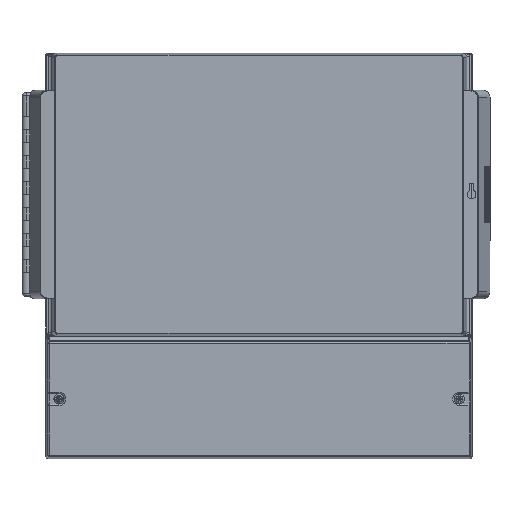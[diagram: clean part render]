
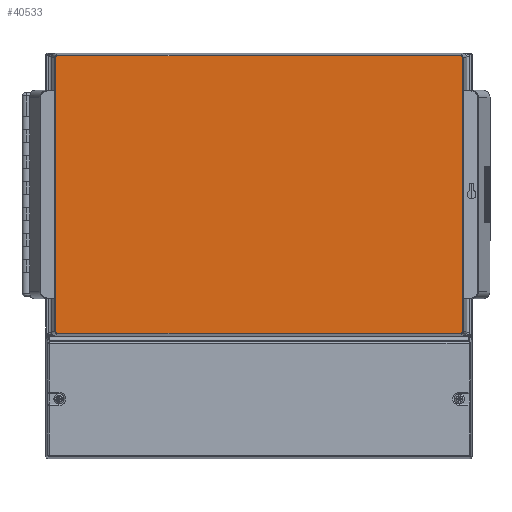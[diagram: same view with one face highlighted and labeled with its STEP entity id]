
A CAD part, top view. The second image highlights one B-rep face of the part: STEP entity #40533.
In plain terms, the highlighted planar face has unit normal (0, 0, 1) as drawn and (0, 1, 0) by its records, which use the part's own axes.
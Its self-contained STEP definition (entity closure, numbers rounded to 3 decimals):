
#39968=CARTESIAN_POINT('',(-13.954,2.75,-9.608));
#39969=VERTEX_POINT('',#39968);
#39977=CARTESIAN_POINT('',(13.954,2.75,-9.608));
#39978=VERTEX_POINT('',#39977);
#39979=CARTESIAN_POINT('',(-13.954,2.75,-9.608));
#39980=DIRECTION('',(1.0,0.0,0.0));
#39981=VECTOR('',#39980,27.908);
#39982=LINE('',#39979,#39981);
#39983=EDGE_CURVE('',#39969,#39978,#39982,.T.);
#40054=CARTESIAN_POINT('',(-14.104,2.75,-9.459));
#40055=VERTEX_POINT('',#40054);
#40063=CARTESIAN_POINT('',(-13.953,2.75,-9.458));
#40064=DIRECTION('',(0.0,-1.0,0.0));
#40065=DIRECTION('',(-0.92,0.0,-0.393));
#40066=AXIS2_PLACEMENT_3D('',#40063,#40064,#40065);
#40067=ELLIPSE('',#40066,0.151,0.15);
#40068=EDGE_CURVE('',#40055,#39969,#40067,.T.);
#40132=CARTESIAN_POINT('',(14.104,2.75,-9.459));
#40133=VERTEX_POINT('',#40132);
#40149=CARTESIAN_POINT('',(13.953,2.75,-9.458));
#40150=DIRECTION('',(0.0,-1.,0.0));
#40151=DIRECTION('',(0.92,0.0,-0.393));
#40152=AXIS2_PLACEMENT_3D('',#40149,#40150,#40151);
#40153=ELLIPSE('',#40152,0.151,0.15);
#40154=EDGE_CURVE('',#39978,#40133,#40153,.T.);
#40164=CARTESIAN_POINT('',(-14.104,2.75,9.459));
#40165=VERTEX_POINT('',#40164);
#40173=CARTESIAN_POINT('',(-14.104,2.75,9.459));
#40174=DIRECTION('',(0.0,0.0,-1.0));
#40175=VECTOR('',#40174,18.918);
#40176=LINE('',#40173,#40175);
#40177=EDGE_CURVE('',#40165,#40055,#40176,.T.);
#40189=CARTESIAN_POINT('',(14.104,2.75,9.459));
#40190=VERTEX_POINT('',#40189);
#40200=CARTESIAN_POINT('',(14.104,2.75,-9.459));
#40201=DIRECTION('',(0.0,0.0,1.0));
#40202=VECTOR('',#40201,18.918);
#40203=LINE('',#40200,#40202);
#40204=EDGE_CURVE('',#40133,#40190,#40203,.T.);
#40262=CARTESIAN_POINT('',(-13.954,2.75,9.608));
#40263=VERTEX_POINT('',#40262);
#40271=CARTESIAN_POINT('',(-13.953,2.75,9.458));
#40272=DIRECTION('',(0.0,-1.,0.0));
#40273=DIRECTION('',(-0.92,0.0,0.393));
#40274=AXIS2_PLACEMENT_3D('',#40271,#40272,#40273);
#40275=ELLIPSE('',#40274,0.151,0.15);
#40276=EDGE_CURVE('',#40263,#40165,#40275,.T.);
#40340=CARTESIAN_POINT('',(13.954,2.75,9.608));
#40341=VERTEX_POINT('',#40340);
#40359=CARTESIAN_POINT('',(13.953,2.75,9.458));
#40360=DIRECTION('',(0.0,-1.0,0.0));
#40361=DIRECTION('',(0.92,0.0,0.393));
#40362=AXIS2_PLACEMENT_3D('',#40359,#40360,#40361);
#40363=ELLIPSE('',#40362,0.151,0.15);
#40364=EDGE_CURVE('',#40190,#40341,#40363,.T.);
#40382=CARTESIAN_POINT('',(13.954,2.75,9.608));
#40383=DIRECTION('',(-1.0,0.0,0.0));
#40384=VECTOR('',#40383,27.908);
#40385=LINE('',#40382,#40384);
#40386=EDGE_CURVE('',#40341,#40263,#40385,.T.);
#40518=CARTESIAN_POINT('',(0.,2.75,0.));
#40519=DIRECTION('',(0.0,1.0,0.0));
#40520=DIRECTION('',(0.0,0.0,1.0));
#40521=AXIS2_PLACEMENT_3D('',#40518,#40519,#40520);
#40522=PLANE('',#40521);
#40523=ORIENTED_EDGE('',*,*,#39983,.F.);
#40524=ORIENTED_EDGE('',*,*,#40068,.F.);
#40525=ORIENTED_EDGE('',*,*,#40177,.F.);
#40526=ORIENTED_EDGE('',*,*,#40276,.F.);
#40527=ORIENTED_EDGE('',*,*,#40386,.F.);
#40528=ORIENTED_EDGE('',*,*,#40364,.F.);
#40529=ORIENTED_EDGE('',*,*,#40204,.F.);
#40530=ORIENTED_EDGE('',*,*,#40154,.F.);
#40531=EDGE_LOOP('',(#40523,#40524,#40525,#40526,#40527,#40528,#40529,#40530));
#40532=FACE_OUTER_BOUND('',#40531,.T.);
#40533=ADVANCED_FACE('',(#40532),#40522,.T.);
